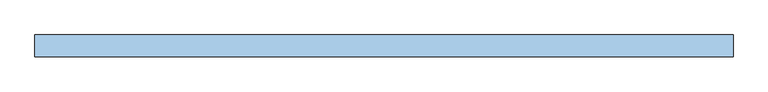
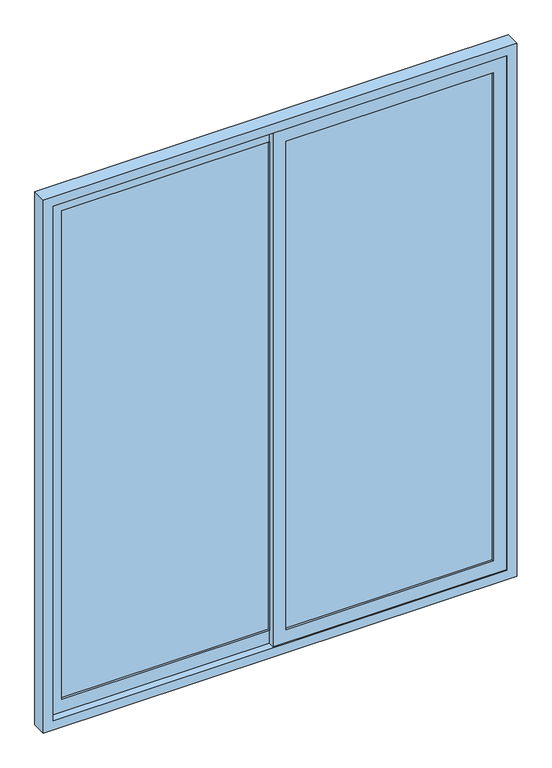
"""IFC4 building model written with IfcOpenShell, lengths in millimetres: window geometry, A18 Ventana_Corrediza_2 hojas : Ventana_Corrediza_2 hojas 195x260."""

from ifc_helpers import new_model, si_unit, frame, origin, place, context, project, spatial, polyline, outline, extrude, source, transform, mapped, element, save


def window_484ae44f(model_context):
    return source(origin(), model_context, "Body", "SweptSolid", [
        extrude(outline(polyline([(-988.4, -13.9), (-988.4, -3.9), (-30.0, -3.9), (-30.0, -13.9), (-988.4, -13.9)])), frame((0.0, 0.0, 108.5), z_axis=(0.0, 0.0, 1.0), x_axis=(1.0, 0.0, 0.0)), (0.0, 0.0, 1.0), 2383.0),
        extrude(outline(polyline([(2554.8, -1048.3), (45.2, -1048.3), (45.2, 30.0), (2554.8, 30.0), (2554.8, -1048.3)]), holes=[polyline([(2491.5, -988.4), (2491.5, -30.0), (108.5, -30.0), (108.5, -988.4), (2491.5, -988.4)])]), frame((0.0, -23.4, 0.0), z_axis=(0.0, 1.0, 0.0), x_axis=(0.0, 0.0, 1.0)), (0.0, 0.0, 1.0), 29.0),
        extrude(outline(polyline([(30.0, -42.9), (30.0, -32.9), (988.4, -32.9), (988.4, -42.9), (30.0, -42.9)])), frame((0.0, 0.0, 108.5), z_axis=(0.0, 0.0, 1.0), x_axis=(1.0, 0.0, 0.0)), (0.0, 0.0, 1.0), 2383.0),
        extrude(outline(polyline([(2554.8, -30.0), (45.2, -30.0), (45.2, 1048.3), (2554.8, 1048.3), (2554.8, -30.0)]), holes=[polyline([(2491.5, 30.0), (2491.5, 988.4), (108.5, 988.4), (108.5, 30.0), (2491.5, 30.0)])]), frame((0.0, -52.4, 0.0), z_axis=(0.0, 1.0, 0.0), x_axis=(0.0, 0.0, 1.0)), (0.0, 0.0, 1.0), 29.0),
        extrude(outline(polyline([(2600.0, -1093.5), (0.0, -1093.5), (0.0, 1093.5), (2600.0, 1093.5), (2600.0, -1093.5)]), holes=[polyline([(2554.8, -1048.3), (2554.8, 1048.3), (45.2, 1048.3), (45.2, -1048.3), (2554.8, -1048.3)])]), frame((0.0, -57.5, 0.0), z_axis=(0.0, 1.0, 0.0), x_axis=(0.0, 0.0, 1.0)), (0.0, 0.0, 1.0), 68.2),
    ])


if __name__ == "__main__":
    model = new_model("IFC4")
    model_context = context("Model", 3, world=origin())
    ifc_project = project(units=[si_unit("LENGTHUNIT", "METRE", prefix="MILLI")], contexts=[model_context])
    site = spatial("IfcSite", under=ifc_project)
    building = spatial("IfcBuilding", under=site)
    placement = place(None, origin())
    window_shape = window_484ae44f(model_context)
    element("IfcWindow", 1, ObjectType="A18 Ventana_Corrediza_2 hojas : Ventana_Corrediza_2 hojas 195x260", at=placement, inside=building, context=model_context, shape_type="MappedRepresentation", body=[
        mapped(window_shape, transform((0.0, 0.0, 0.0), x_axis=(1.0, 0.0, 0.0), y_axis=(0.0, 1.0, 0.0), z_axis=(0.0, 0.0, 1.0))),
    ])
    save(model, "model.ifc")
